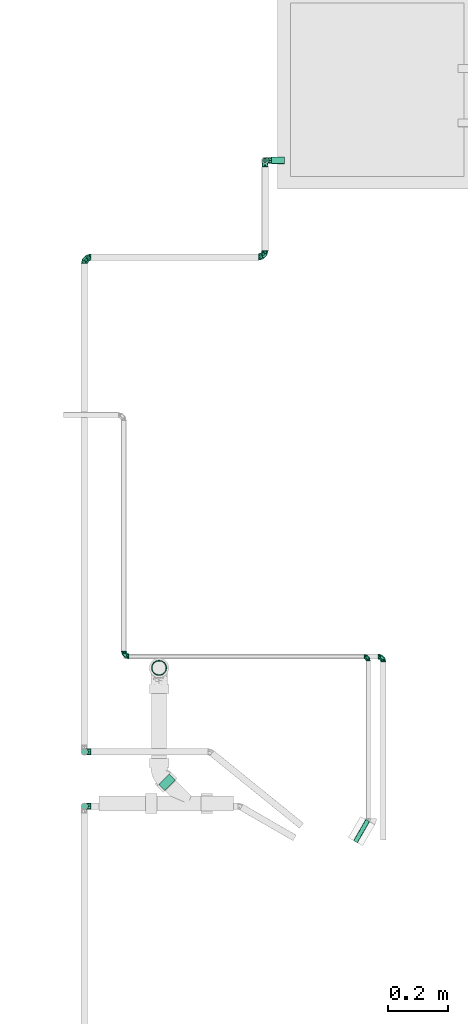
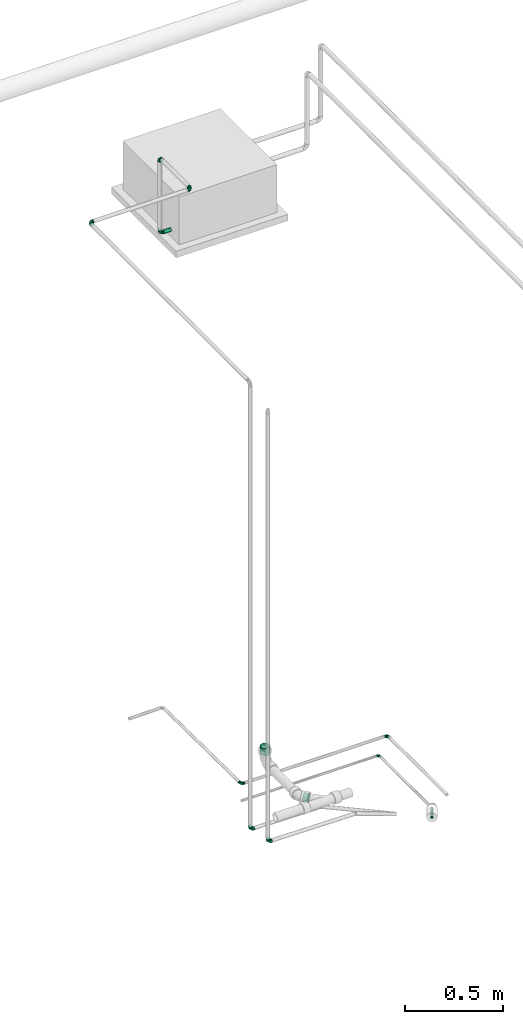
# One storey, part 21 of 35: 9 flow fittings, 4 flow segments.
"""IFC2X3 building model written with IfcOpenShell, lengths in millimetres."""

from ifc_helpers import new_model, entity, si_unit, converted_unit, derived_unit, direction, frame, origin_with_axes, origin_2d_with_axis, place, context, subcontext, project, spatial, hollow_circle, extrude, open_shell, surface_model, source, transform, mapped, type_object, element, save


model = new_model("IFC2X3")

# Units and contexts
model_context = context("Model", 3, precision=0.01, world=frame((0.0, 4.29681676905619e-09, 0.0)), true_north=direction((4.01073788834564e-13, 1.0)))
plan_context = context("Plan", 3, precision=0.01, world=frame((0.0, 4.29681676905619e-09, 0.0)), true_north=direction((4.01073788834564e-13, 1.0)))
body_context = subcontext(model_context, "Body", "Model", "MODEL_VIEW")
ifc_project = project(units=[converted_unit("PLANEANGLEUNIT", "DEGREE", entity("IfcPositiveLengthMeasure", 0.0174532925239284), si_unit("PLANEANGLEUNIT", "RADIAN"), dimensions=[0, 0, 0, 0, 0, 0, 0]), si_unit("AREAUNIT", "SQUARE_METRE"), si_unit("LENGTHUNIT", "METRE", prefix="MILLI"), si_unit("MASSUNIT", "GRAM", prefix="KILO"), si_unit("POWERUNIT", "WATT"), si_unit("PRESSUREUNIT", "PASCAL"), si_unit("FORCEUNIT", "NEWTON", prefix="KILO"), si_unit("ELECTRICVOLTAGEUNIT", "VOLT"), si_unit("ELECTRICCURRENTUNIT", "AMPERE"), si_unit("THERMODYNAMICTEMPERATUREUNIT", "DEGREE_CELSIUS"), si_unit("TIMEUNIT", "SECOND"), si_unit("VOLUMEUNIT", "CUBIC_METRE"), derived_unit("LINEARVELOCITYUNIT", [(si_unit("LENGTHUNIT", "METRE"), 1), (si_unit("TIMEUNIT", "SECOND"), -1)]), derived_unit("VOLUMETRICFLOWRATEUNIT", [(si_unit("VOLUMEUNIT", "CUBIC_METRE"), 1), (si_unit("TIMEUNIT", "SECOND"), -1)]), derived_unit("THERMALTRANSMITTANCEUNIT", [(si_unit("POWERUNIT", "WATT"), 1), (si_unit("THERMODYNAMICTEMPERATUREUNIT", "KELVIN"), -1), (si_unit("AREAUNIT", "SQUARE_METRE"), -1)]), derived_unit("SOUNDPRESSUREUNIT", [(si_unit("PRESSUREUNIT", "PASCAL"), 1)])], contexts=[model_context, plan_context])

# Site, building, storey
site_placement = place(None, frame((0.0, -4.29681676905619e-09, 0.0), z_axis=(0.0, 0.0, 1.0), x_axis=(1.0, 0.0, 0.0)))
site = spatial("IfcSite", under=ifc_project, at=site_placement, Name="ENGM", CompositionType="ELEMENT")
building_placement = place(site_placement, frame((0.0, 4.29681676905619e-09, 0.0), z_axis=(0.0, 0.0, 1.0), x_axis=(1.0, 0.0, 0.0)))
building = spatial("IfcBuilding", under=site, at=building_placement, Name="TH", CompositionType="ELEMENT")
storey_placement = place(building_placement, frame((0.0, 0.0, 210200.0), z_axis=(0.0, 0.0, 1.0), x_axis=(1.0, 0.0, 0.0)))
storey = spatial("IfcBuildingStorey", under=building, at=storey_placement, Name="Nivå F - 0,7 m", CompositionType="ELEMENT", Elevation=210200.0)

# Flow fittings
pipe_fitting_type = type_object("IfcPipeFittingType", Name="magi_pipe_cu_elbow_short_001", PredefinedType="BEND")
shared_shape_1 = source(origin_with_axes(), body_context, "Body", "SurfaceModel", [
    surface_model("IfcShellBasedSurfaceModel", [(-18.0, 4.5, -7.79423), (-18.0, 2.32937, -8.69333), (-18.0, 0.0, -9.0), (-18.0, -6.36396, -6.36396), (-18.0, 8.69333, -2.32937), (-18.0, 7.79423, -4.5), (-18.0, 6.36396, -6.36396), (-18.0, -4.5, -7.79423), (-18.0, -2.32937, -8.69333), (-18.0, -7.79423, -4.5), (-18.0, -8.69333, -2.32937), (-18.0, -9.0, 0.0), (-18.0, 8.69333, 2.32937), (-18.0, -8.69333, 2.32937), (-18.0, 7.79423, 4.5), (-18.0, 6.36396, 6.36396), (-18.0, 2.32937, 8.69333), (-18.0, 4.5, 7.79423), (-18.0, -7.79423, 4.5), (-18.0, -6.36396, 6.36396), (-18.0, -4.5, 7.79423), (-18.0, -2.32937, 8.69333), (-18.0, 0.0, 9.0), (-18.0, 9.0, 0.0), (0.0, 18.0, -9.0), (-2.32937, 18.0, -8.69333), (-4.5, 18.0, -7.79423), (6.36396, 18.0, -6.36396), (-6.36396, 18.0, -6.36396), (-7.79423, 18.0, -4.5), (-8.69333, 18.0, -2.32937), (-8.69333, 18.0, 2.32937), (2.32937, 18.0, -8.69333), (4.5, 18.0, -7.79423), (8.69333, 18.0, -2.32937), (7.79423, 18.0, -4.5), (9.0, 18.0, 0.0), (7.79423, 18.0, 4.5), (-9.0, 18.0, 0.0), (-6.36396, 18.0, 6.36396), (-7.79423, 18.0, 4.5), (-4.5, 18.0, 7.79423), (-2.32937, 18.0, 8.69333), (6.36396, 18.0, 6.36396), (8.69333, 18.0, 2.32937), (2.32937, 18.0, 8.69333), (4.5, 18.0, 7.79423), (0.0, 18.0, 9.0), (-16.09014, -8.48825, 0.0), (-10.51068, -2.97249, 7.92278), (-10.36056, -6.95302, 0.0), (-4.5, -5.38269, 0.0), (0.44134, -0.44134, 0.0), (2.91201, 2.02933, 0.0), (-2.70211, 1.18586, 7.65564), (-2.02933, -2.91201, 0.0), (-14.18028, -7.97651, 0.0), (-7.11648, 7.11648, 8.61373), (-4.93977, 9.63211, 8.64898), (2.97249, 10.51068, 7.92278), (2.01286, 5.84889, 7.1903), (5.38269, 4.5, 0.0), (-5.73616, -2.07922, 7.10204), (8.48825, 16.09014, 0.0), (7.97651, 14.18028, 0.0), (-9.63211, 4.93977, 8.64898), (-10.31802, 14.81802, 0.0), (-14.81802, 10.31802, 0.0), (-11.63604, 11.63604, 0.0), (6.95302, 10.36056, 0.0), (-10.51068, -2.97249, -7.92278), (-4.93977, 9.63211, -8.64898), (0.8585, 4.1248, -7.1903), (-2.68792, 2.14037, -8.03971), (2.97249, 10.51068, -7.92278), (-13.67048, 7.29638, -6.27272), (-8.50355, 2.18787, -8.98901), (-9.83427, 8.11209, -7.36254)], [open_shell([[[0, 1, 2]], [[0, 2, 3]], [[0, 4, 5]], [[6, 0, 5]], [[4, 0, 3]], [[7, 3, 8]], [[3, 2, 8]], [[9, 10, 3]], [[11, 3, 10]], [[3, 11, 4]], [[11, 12, 4]], [[12, 11, 13]], [[14, 12, 15]], [[16, 17, 15]], [[13, 15, 12]], [[15, 18, 16]], [[18, 19, 16]], [[15, 13, 18]], [[20, 21, 19]], [[22, 19, 21]], [[16, 19, 22]], [[23, 4, 12]], [[24, 25, 26]], [[27, 24, 26]], [[28, 29, 30]], [[28, 30, 26]], [[26, 31, 27]], [[32, 27, 33]], [[32, 24, 27]], [[27, 34, 35]], [[34, 27, 36]], [[27, 37, 36]], [[26, 30, 38]], [[27, 31, 37]], [[39, 31, 40]], [[39, 41, 42]], [[39, 42, 31]], [[43, 31, 42]], [[31, 43, 37]], [[44, 36, 37]], [[43, 45, 46]], [[45, 43, 47]], [[47, 43, 42]], [[31, 26, 38]], [[13, 48, 18]], [[49, 50, 51]], [[52, 53, 54]], [[54, 55, 52]], [[20, 19, 56]], [[18, 56, 19]], [[57, 54, 58]], [[20, 50, 21]], [[22, 21, 50]], [[59, 60, 61]], [[59, 58, 60]], [[55, 54, 62]], [[22, 50, 49]], [[22, 49, 16]], [[62, 49, 51]], [[62, 51, 55]], [[37, 63, 44]], [[49, 17, 16]], [[64, 63, 37]], [[12, 65, 23]], [[14, 15, 49]], [[54, 65, 62]], [[17, 49, 15]], [[58, 38, 66]], [[67, 57, 68]], [[53, 60, 54]], [[45, 47, 69]], [[69, 46, 45]], [[39, 59, 41]], [[42, 59, 47]], [[43, 46, 64]], [[68, 57, 66]], [[64, 46, 69]], [[61, 60, 53]], [[44, 63, 36]], [[59, 61, 69]], [[38, 58, 31]], [[20, 56, 50]], [[54, 57, 65]], [[49, 65, 14]], [[66, 57, 58]], [[64, 37, 43]], [[40, 31, 58]], [[14, 65, 12]], [[39, 40, 59]], [[13, 11, 48]], [[40, 58, 59]], [[48, 56, 18]], [[41, 59, 42]], [[59, 69, 47]], [[49, 62, 65]], [[57, 67, 65]], [[54, 60, 58]], [[67, 23, 65]], [[70, 50, 2]], [[71, 72, 73]], [[74, 71, 29]], [[70, 1, 0]], [[70, 51, 50]], [[34, 36, 63]], [[75, 6, 5]], [[75, 4, 23]], [[5, 4, 75]], [[51, 76, 55]], [[75, 23, 67]], [[70, 6, 75]], [[48, 11, 10]], [[7, 56, 3]], [[2, 50, 8]], [[51, 70, 76]], [[56, 7, 50]], [[7, 8, 50]], [[70, 2, 1]], [[66, 38, 71]], [[52, 72, 53]], [[6, 70, 0]], [[70, 75, 76]], [[73, 52, 55]], [[71, 68, 66]], [[61, 53, 72]], [[33, 64, 69]], [[30, 71, 38]], [[28, 74, 29]], [[56, 9, 3]], [[26, 25, 74]], [[63, 64, 35]], [[56, 48, 9]], [[26, 74, 28]], [[9, 48, 10]], [[24, 74, 25]], [[32, 69, 24]], [[29, 71, 30]], [[27, 64, 33]], [[69, 32, 33]], [[68, 71, 77]], [[74, 24, 69]], [[35, 34, 63]], [[61, 72, 74]], [[61, 74, 69]], [[67, 77, 75]], [[74, 72, 71]], [[35, 64, 27]], [[76, 77, 73]], [[75, 77, 76]], [[77, 71, 73]], [[55, 76, 73]], [[72, 52, 73]], [[77, 67, 68]]])]),
])
for number, where, z_axis, x_axis, name in (
    (1, (899490.50163, 483977.73199, 202.100000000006), (0.0, -4.29999999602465e-05, 0.9999999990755), (0.0, 0.9999999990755, 4.29999999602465e-05), "magi_pipe_cu_elbow_short_001"),
    (2, (898630.50163, 483977.73199, 202.100000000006), (0.0, 0.00999900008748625, 0.999950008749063), (0.0, -0.999950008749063, 0.00999900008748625), "magi_pipe_cu_elbow_short_001"),
):
    element("IfcFlowFitting", number, at=place(storey_placement, frame(where, z_axis=z_axis, x_axis=x_axis)), inside=storey, type_object=pipe_fitting_type, Name=name, context=body_context, shape_type="MappedRepresentation", body=[
        mapped(shared_shape_1, transform((0.0, 0.0, 0.0), scale=1.0)),
    ])
shared_shape_2 = source(origin_with_axes(), body_context, "Body", "SurfaceModel", [
    surface_model("IfcShellBasedSurfaceModel", [(-22.0, 0.0, -11.0), (-22.0, -2.84701, -10.62518), (-22.0, 2.84701, -10.62518), (-22.0, 5.5, -9.52628), (-22.0, 7.77817, -7.77817), (-22.0, 10.62518, -2.84701), (-22.0, 9.52628, -5.5), (-22.0, -7.77817, -7.77817), (-22.0, -9.52628, -5.5), (-22.0, -5.5, -9.52628), (-22.0, -10.62518, -2.84701), (-22.0, -9.52628, 5.5), (-22.0, -11.0, 0.0), (-22.0, 10.62518, 2.84701), (-22.0, 9.52628, 5.5), (-22.0, 7.77817, 7.77817), (-22.0, 2.84701, 10.62518), (-22.0, 5.5, 9.52628), (-22.0, -7.77817, 7.77817), (-22.0, -10.62518, 2.84701), (-22.0, -2.84701, 10.62518), (-22.0, 0.0, 11.0), (-22.0, -5.5, 9.52628), (-22.0, 11.0, 0.0), (-2.84701, 22.0, -10.62518), (2.84701, 22.0, -10.62518), (0.0, 22.0, -11.0), (-7.77817, 22.0, -7.77817), (-5.5, 22.0, -9.52628), (-9.52628, 22.0, -5.5), (-10.62518, 22.0, -2.84701), (5.5, 22.0, -9.52628), (9.52628, 22.0, -5.5), (7.77817, 22.0, -7.77817), (10.62518, 22.0, -2.84701), (9.52628, 22.0, 5.5), (11.0, 22.0, 0.0), (-10.62518, 22.0, 2.84701), (-7.77817, 22.0, 7.77817), (-9.52628, 22.0, 5.5), (-5.5, 22.0, 9.52628), (-2.84701, 22.0, 10.62518), (7.77817, 22.0, 7.77817), (10.62518, 22.0, 2.84701), (5.5, 22.0, 9.52628), (0.0, 22.0, 11.0), (2.84701, 22.0, 10.62518), (-11.0, 22.0, 0.0), (-18.49859, -10.0618, 0.0), (-10.24859, -7.85122, 0.0), (-9.34901, -7.11844, 5.09685), (-14.89307, -7.23891, 7.45305), (5.78852, 8.4802, 6.46058), (2.12041, 3.18539, 6.87037), (3.55913, 2.48029, 0.0), (1.01335, 10.61047, 10.36705), (-14.99718, -9.1236, 0.0), (5.14392, 14.4409, 9.10203), (-11.75269, -3.39299, 9.59306), (7.85122, 10.24859, 0.0), (9.1236, 14.99718, 0.0), (-8.06006, 14.23023, 9.19276), (-3.72868, 16.47919, 10.60733), (-15.76443, 3.42828, 10.73288), (-8.21542, -0.66336, 10.02562), (-12.61091, 18.11091, 0.0), (-14.22183, 14.22183, 0.0), (-5.37587, -4.55716, 5.82482), (6.57884, 5.5, 0.0), (-15.57958, 10.44534, 6.62476), (-10.44966, 10.29499, 9.49395), (10.0618, 18.49859, 0.0), (-7.4322, 4.10078, 10.94703), (-2.22445, -1.03187, 7.15282), (0.53942, -0.53942, 0.0), (-3.02405, 7.17381, 10.80133), (-18.11091, 12.61091, 0.0), (-2.48029, -3.55913, 0.0), (-5.5, -6.57884, 0.0), (-9.08269, -0.07613, -10.40197), (-2.22445, -1.03187, -7.15282), (-6.00435, -4.17546, -6.76221), (-8.06006, 14.23023, -9.19276), (-15.76443, 3.42828, -10.73288), (-11.75269, -3.39299, -9.59306), (-15.57958, 10.44534, -6.62476), (-7.4322, 4.10078, -10.94703), (-10.44966, 10.29499, -9.49395), (2.12041, 3.18539, -6.87037), (-3.02405, 7.17381, -10.80133), (-14.89307, -7.23891, -7.45305), (5.14392, 14.4409, -9.10203), (-3.72868, 16.47919, -10.60733), (1.01335, 10.61047, -10.36705), (5.78852, 8.4802, -6.46058), (-9.34901, -7.11844, -5.09685)], [open_shell([[[0, 1, 2]], [[3, 2, 4]], [[5, 6, 4]], [[4, 2, 1]], [[5, 4, 1]], [[7, 8, 9]], [[1, 9, 8]], [[8, 10, 1]], [[11, 1, 10]], [[12, 11, 10]], [[5, 1, 11]], [[11, 13, 5]], [[14, 13, 15]], [[16, 17, 15]], [[13, 16, 15]], [[16, 13, 11]], [[11, 18, 16]], [[11, 12, 19]], [[20, 21, 22]], [[16, 18, 22]], [[21, 16, 22]], [[23, 5, 13]], [[24, 25, 26]], [[27, 24, 28]], [[27, 29, 30]], [[25, 24, 27]], [[25, 27, 30]], [[31, 32, 33]], [[32, 31, 25]], [[25, 34, 32]], [[34, 25, 35]], [[34, 35, 36]], [[35, 25, 30]], [[30, 37, 35]], [[38, 37, 39]], [[38, 40, 41]], [[38, 41, 37]], [[35, 37, 41]], [[41, 42, 35]], [[43, 36, 35]], [[44, 45, 46]], [[44, 42, 41]], [[44, 41, 45]], [[37, 30, 47]], [[11, 19, 48]], [[49, 50, 51]], [[52, 53, 54]], [[52, 55, 53]], [[51, 18, 56]], [[18, 11, 56]], [[41, 57, 45]], [[21, 51, 58]], [[51, 20, 22]], [[57, 59, 60]], [[61, 55, 62]], [[63, 58, 64]], [[65, 66, 61]], [[51, 21, 20]], [[21, 58, 16]], [[67, 58, 50]], [[54, 68, 52]], [[63, 15, 17]], [[19, 12, 48]], [[23, 13, 69]], [[14, 15, 63]], [[62, 40, 38]], [[16, 58, 63]], [[14, 69, 13]], [[63, 17, 16]], [[59, 52, 68]], [[60, 42, 44]], [[57, 46, 45]], [[69, 70, 66]], [[52, 59, 57]], [[39, 62, 38]], [[60, 35, 42]], [[44, 57, 60]], [[44, 46, 57]], [[18, 51, 22]], [[43, 71, 36]], [[51, 56, 49]], [[70, 69, 72]], [[73, 74, 53]], [[75, 72, 73]], [[14, 63, 69]], [[47, 65, 37]], [[35, 71, 43]], [[55, 57, 62]], [[52, 57, 55]], [[41, 40, 62]], [[60, 71, 35]], [[37, 61, 39]], [[48, 56, 11]], [[61, 62, 39]], [[62, 57, 41]], [[69, 63, 72]], [[53, 75, 73]], [[69, 66, 76]], [[67, 64, 58]], [[75, 53, 55]], [[67, 77, 73]], [[55, 61, 75]], [[70, 75, 61]], [[50, 49, 78]], [[67, 50, 78]], [[51, 50, 58]], [[77, 74, 73]], [[73, 72, 64]], [[67, 78, 77]], [[73, 64, 67]], [[63, 64, 72]], [[37, 65, 61]], [[75, 70, 72]], [[23, 69, 76]], [[66, 70, 61]], [[53, 74, 54]], [[79, 80, 81]], [[65, 30, 82]], [[3, 4, 83]], [[2, 84, 0]], [[5, 23, 85]], [[8, 48, 10]], [[83, 6, 85]], [[85, 6, 5]], [[86, 85, 87]], [[83, 86, 79]], [[83, 84, 2]], [[48, 12, 10]], [[80, 77, 81]], [[88, 80, 89]], [[8, 7, 56]], [[9, 1, 90]], [[91, 31, 60]], [[7, 9, 90]], [[90, 1, 0]], [[84, 90, 0]], [[7, 90, 56]], [[29, 92, 82]], [[6, 83, 4]], [[85, 23, 76]], [[80, 88, 74]], [[82, 66, 65]], [[93, 82, 92]], [[29, 82, 30]], [[29, 27, 92]], [[27, 28, 92]], [[71, 60, 32]], [[91, 92, 24]], [[56, 48, 8]], [[34, 36, 71]], [[28, 24, 92]], [[94, 88, 93]], [[26, 91, 24]], [[31, 91, 25]], [[83, 2, 3]], [[94, 93, 91]], [[33, 60, 31]], [[89, 93, 88]], [[25, 91, 26]], [[71, 32, 34]], [[92, 91, 93]], [[59, 91, 60]], [[86, 83, 85]], [[95, 78, 49]], [[33, 32, 60]], [[66, 87, 85]], [[94, 59, 68]], [[89, 80, 86]], [[49, 56, 90]], [[94, 54, 88]], [[59, 94, 91]], [[95, 90, 84]], [[87, 89, 86]], [[82, 93, 89]], [[81, 78, 95]], [[90, 95, 49]], [[81, 95, 84]], [[79, 81, 84]], [[82, 87, 66]], [[83, 79, 84]], [[80, 79, 86]], [[77, 80, 74]], [[77, 78, 81]], [[47, 30, 65]], [[66, 85, 76]], [[89, 87, 82]], [[54, 94, 68]], [[54, 74, 88]]])]),
])
for number, where, z_axis, x_axis, name in (
    (3, (899098.44747, 485620.66876, 2940.24952000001), (1.0, 0.0, 0.0), (0.0, 0.0, 1.0), "magi_pipe_cu_elbow_short_001"),
    (4, (899098.48428, 485300.66876, 2940.09995999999), (0.0, 0.0, 1.0), (1.0, 0.0, 0.0), "magi_pipe_cu_elbow_short_001"),
    (5, (898499.95953, 485300.66876, 2940.09995999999), (0.0, 0.0, 1.0), (-1.0, 0.0, 0.0), "magi_pipe_cu_elbow_short_001"),
    (6, (899098.44747, 485620.66876, 2470.24952000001), (0.0, -1.0, 0.0), (0.0, 0.0, -1.0), "magi_pipe_cu_elbow_short_001"),
):
    element("IfcFlowFitting", number, at=place(storey_placement, frame(where, z_axis=z_axis, x_axis=x_axis)), inside=storey, type_object=pipe_fitting_type, Name=name, context=body_context, shape_type="MappedRepresentation", body=[
        mapped(shared_shape_2, transform((0.0, 0.0, 0.0), scale=1.0)),
    ])
shared_shape_3 = source(origin_with_axes(), body_context, "Body", "SurfaceModel", [
    surface_model("IfcShellBasedSurfaceModel", [(-15.0, 0.0, -7.5), (-15.0, -6.49519, -3.75), (-15.0, 1.94114, -7.24444), (-15.0, 3.75, -6.49519), (-15.0, 5.3033, -5.3033), (-15.0, 7.24444, -1.94114), (-15.0, 6.49519, -3.75), (-15.0, -5.3033, -5.3033), (-15.0, -3.75, -6.49519), (-15.0, -1.94114, -7.24444), (-15.0, -7.24444, -1.94114), (-15.0, -7.5, 0.0), (-15.0, -6.49519, 3.75), (-15.0, 7.24444, 1.94114), (-15.0, 6.49519, 3.75), (-15.0, 3.75, 6.49519), (-15.0, 1.94114, 7.24444), (-15.0, 5.3033, 5.3033), (-15.0, -5.3033, 5.3033), (-15.0, -7.24444, 1.94114), (-15.0, -1.94114, 7.24444), (-15.0, 0.0, 7.5), (-15.0, -3.75, 6.49519), (-15.0, 7.5, 0.0), (-1.94114, 15.0, -7.24444), (6.49519, 15.0, -3.75), (0.0, 15.0, -7.5), (-5.3033, 15.0, -5.3033), (-3.75, 15.0, -6.49519), (-6.49519, 15.0, -3.75), (-7.24444, 15.0, -1.94114), (3.75, 15.0, -6.49519), (5.3033, 15.0, -5.3033), (1.94114, 15.0, -7.24444), (7.5, 15.0, 0.0), (7.24444, 15.0, -1.94114), (-7.5, 15.0, 0.0), (-7.24444, 15.0, 1.94114), (-6.49519, 15.0, 3.75), (-3.75, 15.0, 6.49519), (-1.94114, 15.0, 7.24444), (-5.3033, 15.0, 5.3033), (5.3033, 15.0, 5.3033), (6.49519, 15.0, 3.75), (7.24444, 15.0, 1.94114), (3.75, 15.0, 6.49519), (0.0, 15.0, 7.5), (1.94114, 15.0, 7.24444), (-13.40845, -7.07355, 0.0), (-8.7589, -2.47707, 6.60232), (-8.6338, -5.79418, 0.0), (-3.75, -4.48557, 0.0), (0.36779, -0.36779, 0.0), (2.42668, 1.69111, 0.0), (-2.25176, 0.98822, 6.3797), (-1.69111, -2.42668, 0.0), (-11.8169, -6.64709, 0.0), (-5.9304, 5.9304, 7.17811), (-4.11647, 8.02676, 7.20749), (2.47708, 8.7589, 6.60232), (1.67739, 4.87408, 5.99192), (4.48557, 3.75, 0.0), (-4.78013, -1.73268, 5.91836), (7.07355, 13.40845, 0.0), (6.64709, 11.8169, 0.0), (-8.02675, 4.11647, 7.20749), (-8.59835, 12.34835, 0.0), (-12.34835, 8.59835, 0.0), (-9.6967, 9.6967, 0.0), (5.79418, 8.6338, 0.0), (-8.7589, -2.47707, -6.60232), (-4.11647, 8.02676, -7.20749), (0.71542, 3.43733, -5.99192), (-2.23993, 1.78364, -6.69976), (2.47708, 8.7589, -6.60232), (-11.39207, 6.08032, -5.22727), (-7.08629, 1.82323, -7.49084), (-8.19523, 6.76007, -6.13545)], [open_shell([[[0, 1, 2]], [[3, 2, 4]], [[5, 6, 4]], [[4, 2, 1]], [[5, 4, 1]], [[7, 1, 8]], [[9, 8, 1]], [[10, 11, 1]], [[0, 9, 1]], [[11, 12, 1]], [[12, 5, 1]], [[13, 5, 12]], [[14, 13, 15]], [[13, 16, 15]], [[17, 14, 15]], [[16, 13, 12]], [[12, 18, 16]], [[12, 11, 19]], [[20, 21, 22]], [[18, 22, 21]], [[16, 18, 21]], [[13, 23, 5]], [[24, 25, 26]], [[27, 24, 28]], [[27, 29, 30]], [[25, 24, 27]], [[25, 27, 30]], [[31, 25, 32]], [[25, 31, 33]], [[25, 34, 35]], [[25, 33, 26]], [[30, 34, 25]], [[30, 36, 34]], [[36, 37, 38]], [[36, 38, 39]], [[40, 34, 39]], [[39, 38, 41]], [[40, 42, 34]], [[42, 43, 34]], [[44, 34, 43]], [[45, 46, 47]], [[45, 42, 40]], [[45, 40, 46]], [[39, 34, 36]], [[19, 48, 12]], [[49, 50, 51]], [[52, 53, 54]], [[54, 55, 52]], [[22, 18, 56]], [[12, 56, 18]], [[57, 54, 58]], [[22, 50, 20]], [[21, 20, 50]], [[59, 60, 61]], [[59, 58, 60]], [[55, 54, 62]], [[21, 50, 49]], [[21, 49, 16]], [[62, 49, 51]], [[62, 51, 55]], [[43, 63, 44]], [[49, 15, 16]], [[64, 63, 43]], [[13, 65, 23]], [[14, 17, 49]], [[54, 65, 62]], [[15, 49, 17]], [[57, 58, 66]], [[67, 57, 68]], [[53, 60, 54]], [[47, 46, 69]], [[69, 45, 47]], [[41, 59, 39]], [[40, 59, 46]], [[42, 45, 64]], [[54, 60, 58]], [[64, 45, 69]], [[61, 60, 53]], [[44, 63, 34]], [[59, 61, 69]], [[58, 36, 66]], [[22, 56, 50]], [[54, 57, 65]], [[49, 65, 14]], [[37, 36, 58]], [[64, 43, 42]], [[38, 37, 58]], [[14, 65, 13]], [[41, 38, 59]], [[19, 11, 48]], [[38, 58, 59]], [[48, 56, 12]], [[39, 59, 40]], [[59, 69, 46]], [[49, 62, 65]], [[57, 67, 65]], [[66, 68, 57]], [[67, 23, 65]], [[70, 50, 0]], [[71, 72, 73]], [[74, 71, 29]], [[70, 2, 3]], [[70, 51, 50]], [[35, 34, 63]], [[75, 4, 6]], [[75, 5, 23]], [[6, 5, 75]], [[51, 76, 55]], [[75, 23, 67]], [[70, 4, 75]], [[48, 11, 10]], [[8, 56, 7]], [[0, 50, 9]], [[51, 70, 76]], [[56, 8, 50]], [[8, 9, 50]], [[70, 0, 2]], [[66, 36, 71]], [[52, 72, 53]], [[4, 70, 3]], [[70, 75, 76]], [[73, 52, 55]], [[71, 68, 66]], [[61, 53, 72]], [[31, 64, 69]], [[30, 71, 36]], [[27, 74, 29]], [[56, 1, 7]], [[28, 24, 74]], [[63, 64, 25]], [[56, 48, 1]], [[28, 74, 27]], [[1, 48, 10]], [[26, 74, 24]], [[33, 69, 26]], [[29, 71, 30]], [[32, 64, 31]], [[69, 33, 31]], [[68, 71, 77]], [[74, 26, 69]], [[25, 35, 63]], [[61, 72, 74]], [[61, 74, 69]], [[67, 77, 75]], [[74, 72, 71]], [[25, 64, 32]], [[76, 77, 73]], [[75, 77, 76]], [[77, 71, 73]], [[55, 76, 73]], [[72, 52, 73]], [[77, 67, 68]]])]),
])
flow_fitting_placement = place(storey_placement, frame((899440.50163, 483977.73199, 97.1000000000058), z_axis=(0.0, 0.0, 1.0), x_axis=(0.0, 1.0, 0.0)))
element("IfcFlowFitting", 7, at=flow_fitting_placement, inside=storey, type_object=pipe_fitting_type, Name="magi_pipe_cu_elbow_short_001", context=body_context, shape_type="MappedRepresentation", body=[
    mapped(shared_shape_3, transform((0.0, 0.0, 0.0), scale=1.0)),
])
shared_shape_4 = source(origin_with_axes(), body_context, "Body", "SurfaceModel", [
    surface_model("IfcShellBasedSurfaceModel", [(-21.7811, 0.0, -11.0), (-21.7811, -2.84701, -10.62518), (-21.7811, 2.84701, -10.62518), (-21.7811, 5.5, -9.52628), (-21.7811, 7.77817, -7.77817), (-21.7811, 10.62518, -2.84701), (-21.7811, 9.52628, -5.5), (-21.7811, -7.77817, -7.77817), (-21.7811, -9.52628, -5.5), (-21.7811, -5.5, -9.52628), (-21.7811, -10.62518, -2.84701), (-21.7811, -9.52628, 5.5), (-21.7811, -11.0, 0.0), (-21.7811, 10.62518, 2.84701), (-21.7811, 9.52628, 5.5), (-21.7811, 7.77817, 7.77817), (-21.7811, 2.84701, 10.62518), (-21.7811, 5.5, 9.52628), (-21.7811, -7.77817, 7.77817), (-21.7811, -10.62518, 2.84701), (-21.7811, -2.84701, 10.62518), (-21.7811, 0.0, 11.0), (-21.7811, -5.5, 9.52628), (-21.7811, 11.0, 0.0), (-2.62907, 21.80848, -10.62518), (3.06467, 21.75154, -10.62518), (0.2178, 21.78001, -11.0), (-7.55999, 21.85779, -7.77817), (-5.28193, 21.83501, -9.52628), (-9.308, 21.87527, -5.5), (-10.40685, 21.88626, -2.84701), (7.99559, 21.70223, -7.77817), (5.71752, 21.72501, -9.52628), (9.7436, 21.68475, -5.5), (10.84245, 21.67376, -2.84701), (9.7436, 21.68475, 5.5), (11.21725, 21.67002, 0.0), (-7.55999, 21.85779, 7.77817), (-10.40685, 21.88626, 2.84701), (-9.308, 21.87527, 5.5), (-5.28193, 21.83501, 9.52628), (-2.62907, 21.80848, 10.62518), (7.99559, 21.70223, 7.77817), (10.84245, 21.67376, 2.84701), (3.06467, 21.75154, 10.62518), (5.71752, 21.72501, 9.52628), (0.2178, 21.78001, 11.0), (-10.78165, 21.89001, 0.0), (-18.27762, -10.0675, 0.0), (-14.69686, -7.2276, 7.47076), (-14.77414, -9.135, 0.0), (-10.0753, -7.88434, 0.0), (-11.55383, -3.37689, 9.6056), (-9.20877, -7.13537, 5.12679), (-4.8184, -3.79345, 6.50389), (2.16903, 15.67761, 10.64537), (-6.59146, 17.54352, 9.10658), (1.10212, 10.38687, 10.37277), (-7.93582, 14.12228, 9.1733), (-15.56806, 3.44552, 10.72758), (-15.42829, 10.45726, 6.56717), (-14.04191, 14.18303, 0.0), (-12.41178, 18.03652, 0.0), (-5.37645, -6.63368, 0.0), (-0.83948, 0.68001, 7.6702), (-7.36179, 4.13853, 10.95843), (6.68711, 5.30985, 0.0), (4.45708, 5.28985, 6.16887), (3.67122, 2.32397, 0.0), (7.61965, 13.3249, 6.79044), (9.28228, 14.68206, 0.0), (-10.35721, 10.27116, 9.45175), (-2.72095, 6.80237, 10.74002), (5.4447, 9.95435, 7.78485), (7.98469, 9.99595, 0.0), (10.24976, 18.17604, 0.0), (-10.03514, 0.72985, 10.75731), (-17.91151, 12.59152, 0.0), (-2.36056, -3.6478, 0.0), (0.65533, -0.66191, 0.0), (-10.03514, 0.72985, -10.75731), (-4.8184, -3.79345, -6.50389), (-11.55383, -3.37689, -9.6056), (-10.35721, 10.27116, -9.45175), (-7.36179, 4.13853, -10.95843), (-15.42829, 10.45726, -6.56717), (-15.56806, 3.44552, -10.72758), (-0.83948, 0.68001, -7.6702), (-2.72095, 6.80237, -10.74002), (4.45708, 5.28985, -6.16887), (-6.59146, 17.54352, -9.10658), (-9.20877, -7.13537, -5.12679), (-14.69686, -7.2276, -7.47076), (5.4447, 9.95435, -7.78485), (-7.93582, 14.12228, -9.1733), (2.16903, 15.67761, -10.64537), (7.61965, 13.3249, -6.79044), (1.10212, 10.38687, -10.37277)], [open_shell([[[0, 1, 2]], [[3, 2, 4]], [[5, 6, 4]], [[4, 2, 1]], [[5, 4, 1]], [[7, 8, 9]], [[1, 9, 8]], [[8, 10, 1]], [[11, 1, 10]], [[12, 11, 10]], [[5, 1, 11]], [[11, 13, 5]], [[14, 13, 15]], [[16, 17, 15]], [[13, 16, 15]], [[16, 13, 11]], [[11, 18, 16]], [[11, 12, 19]], [[20, 21, 22]], [[16, 18, 22]], [[21, 16, 22]], [[23, 5, 13]], [[24, 25, 26]], [[27, 24, 28]], [[27, 29, 30]], [[25, 31, 32]], [[31, 25, 33]], [[25, 34, 33]], [[34, 35, 36]], [[37, 38, 39]], [[37, 40, 41]], [[37, 41, 38]], [[42, 38, 41]], [[43, 36, 35]], [[42, 44, 45]], [[42, 41, 44]], [[44, 41, 46]], [[38, 30, 47]], [[11, 19, 48]], [[49, 50, 51]], [[52, 53, 54]], [[55, 56, 57]], [[49, 18, 50]], [[18, 11, 50]], [[44, 46, 55]], [[21, 49, 52]], [[49, 20, 22]], [[18, 49, 22]], [[58, 57, 56]], [[14, 59, 60]], [[61, 58, 62]], [[49, 21, 20]], [[21, 52, 16]], [[53, 51, 63]], [[54, 64, 65]], [[59, 15, 17]], [[19, 12, 48]], [[23, 13, 60]], [[14, 15, 59]], [[40, 56, 55]], [[16, 52, 59]], [[14, 60, 13]], [[59, 17, 16]], [[66, 67, 68]], [[69, 70, 42]], [[45, 44, 69]], [[58, 71, 72]], [[41, 55, 46]], [[44, 55, 69]], [[70, 35, 42]], [[73, 74, 69]], [[42, 45, 69]], [[54, 53, 63]], [[43, 75, 36]], [[76, 59, 52]], [[71, 60, 65]], [[54, 65, 76]], [[61, 60, 71]], [[73, 55, 57]], [[38, 58, 56]], [[35, 75, 43]], [[56, 37, 39]], [[73, 57, 67]], [[37, 56, 40]], [[70, 75, 35]], [[62, 38, 47]], [[48, 50, 11]], [[56, 39, 38]], [[40, 55, 41]], [[60, 59, 65]], [[49, 53, 52]], [[60, 61, 77]], [[64, 78, 79]], [[49, 51, 53]], [[78, 64, 54]], [[64, 79, 68]], [[72, 65, 64]], [[54, 76, 52]], [[68, 67, 64]], [[67, 57, 72]], [[67, 72, 64]], [[58, 72, 57]], [[66, 73, 67]], [[55, 73, 69]], [[38, 62, 58]], [[72, 71, 65]], [[61, 71, 58]], [[74, 73, 66]], [[74, 70, 69]], [[65, 59, 76]], [[54, 63, 78]], [[80, 81, 82]], [[83, 84, 85]], [[3, 4, 86]], [[2, 82, 0]], [[5, 23, 85]], [[8, 48, 10]], [[86, 6, 85]], [[87, 88, 89]], [[85, 6, 5]], [[29, 90, 30]], [[82, 86, 80]], [[86, 82, 2]], [[48, 12, 10]], [[87, 81, 84]], [[81, 91, 82]], [[8, 7, 50]], [[9, 1, 92]], [[66, 89, 93]], [[7, 9, 92]], [[92, 1, 0]], [[82, 92, 0]], [[6, 86, 4]], [[90, 27, 28]], [[84, 86, 85]], [[85, 23, 77]], [[92, 91, 51]], [[94, 30, 90]], [[93, 95, 96]], [[30, 94, 62]], [[29, 27, 90]], [[94, 61, 62]], [[75, 70, 33]], [[24, 95, 28]], [[50, 48, 8]], [[34, 36, 75]], [[28, 95, 90]], [[91, 81, 63]], [[26, 95, 24]], [[90, 95, 97]], [[86, 2, 3]], [[31, 70, 96]], [[32, 31, 96]], [[88, 94, 97]], [[25, 96, 95]], [[75, 33, 34]], [[93, 74, 66]], [[25, 32, 96]], [[25, 95, 26]], [[7, 92, 50]], [[31, 33, 70]], [[61, 83, 85]], [[91, 63, 51]], [[51, 50, 92]], [[91, 92, 82]], [[97, 94, 90]], [[87, 78, 81]], [[84, 88, 87]], [[87, 68, 79]], [[87, 89, 68]], [[66, 68, 89]], [[93, 89, 97]], [[88, 84, 83]], [[89, 88, 97]], [[95, 93, 97]], [[96, 74, 93]], [[94, 83, 61]], [[47, 30, 62]], [[88, 83, 94]], [[96, 70, 74]], [[86, 84, 80]], [[81, 80, 84]], [[78, 87, 79]], [[78, 63, 81]], [[25, 24, 27]], [[38, 34, 27]], [[25, 27, 34]], [[38, 27, 30]], [[38, 42, 34]], [[42, 35, 34]], [[77, 23, 60]], [[77, 61, 85]]])]),
])
for number, where, z_axis, x_axis, name in (
    (8, (898499.95953, 483661.97713, 156.195970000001), (0.0, -1.0, 0.0), (0.0, 0.0, -1.0), "magi_pipe_cu_elbow_short_001"),
    (9, (898499.99953, 483481.65479, 188.496569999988), (0.0, -1.0, 0.0), (0.0, 0.0, -1.0), "magi_pipe_cu_elbow_short_001"),
):
    element("IfcFlowFitting", number, at=place(storey_placement, frame(where, z_axis=z_axis, x_axis=x_axis)), inside=storey, type_object=pipe_fitting_type, Name=name, context=body_context, shape_type="MappedRepresentation", body=[
        mapped(shared_shape_4, transform((0.0, 0.0, 0.0), scale=1.0)),
    ])

# Flow segments
pipe_segment_type_1 = type_object("IfcPipeSegmentType", Name="Kobberrør", PredefinedType="RIGIDSEGMENT")
shared_shape_5 = source(origin_with_axes(), body_context, "Body", "SweptSolid", [
    extrude(hollow_circle(Radius=11.0, WallThickness=2.0, at=origin_2d_with_axis()), frame((0.0, 0.0, 0.0), z_axis=(1.0, 0.0, 0.0), x_axis=(0.0, 1.0, 0.0)), (0.0, 0.0, 1.0), 43.0),
])
flow_segment_1_placement = place(storey_placement, frame((899120.44747, 485620.66876, 2470.24952000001), z_axis=(0.0, 0.0, 1.0), x_axis=(1.0, 0.0, 0.0)))
element("IfcFlowSegment", 10, at=flow_segment_1_placement, inside=storey, type_object=pipe_segment_type_1, Name="Kobberrør", context=body_context, shape_type="MappedRepresentation", body=[
    mapped(shared_shape_5, transform((0.0, 0.0, 0.0), scale=1.0)),
])
shared_shape_6 = source(origin_with_axes(), body_context, "Body", "SweptSolid", [
    extrude(hollow_circle(Radius=7.5, WallThickness=2.0, at=origin_2d_with_axis()), frame((0.0, 0.0, 0.0), z_axis=(1.0, 0.0, 0.0), x_axis=(0.0, 1.0, 0.0)), (0.0, 0.0, 1.0), 81.0),
])
flow_segment_2_placement = place(storey_placement, frame((899397.99975, 483364.11656, 97.078600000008), z_axis=(-0.0001259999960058, -0.0002179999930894, 0.999999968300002), x_axis=(0.500000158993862, 0.866025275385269, 0.000251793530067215)))
element("IfcFlowSegment", 11, at=flow_segment_2_placement, inside=storey, type_object=pipe_segment_type_1, Name="Kobberrør", context=body_context, shape_type="MappedRepresentation", body=[
    mapped(shared_shape_6, transform((0.0, 0.0, 0.0), scale=1.0)),
])
pipe_segment_type_2 = type_object("IfcPipeSegmentType", Name="PP avløpsrør", PredefinedType="RIGIDSEGMENT")
shared_shape_7 = source(origin_with_axes(), body_context, "Body", "SweptSolid", [
    extrude(hollow_circle(Radius=25.0, WallThickness=2.0, at=origin_2d_with_axis()), frame((0.0, 0.0, 0.0), z_axis=(1.0, 0.0, 0.0), x_axis=(0.0, 1.0, 0.0)), (0.0, 0.0, 1.0), 28.0),
])
flow_segment_3_placement = place(storey_placement, frame((898783.36965, 483551.4788, 317.937290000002), z_axis=(0.707133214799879, 0.707068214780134, 0.00414200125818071), x_axis=(-0.707077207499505, 0.707100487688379, 0.00712200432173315)))
element("IfcFlowSegment", 12, at=flow_segment_3_placement, inside=storey, type_object=pipe_segment_type_2, Name="PP avløpsrør", context=body_context, shape_type="MappedRepresentation", body=[
    mapped(shared_shape_7, transform((0.0, 0.0, 0.0), scale=1.0)),
])
shared_shape_8 = source(origin_with_axes(), body_context, "Body", "SweptSolid", [
    extrude(hollow_circle(Radius=25.0, WallThickness=2.0, at=origin_2d_with_axis()), frame((0.0, 0.0, 0.0), z_axis=(1.0, 0.0, 0.0), x_axis=(0.0, 1.0, 0.0)), (0.0, 0.0, 1.0), 45.8),
])
flow_segment_4_placement = place(storey_placement, frame((898747.47481, 483939.87451, 422.100000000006), z_axis=(0.0, 1.0, 0.0), x_axis=(0.0, 0.0, -1.0)))
element("IfcFlowSegment", 13, at=flow_segment_4_placement, inside=storey, type_object=pipe_segment_type_2, Name="PP avløpsrør", context=body_context, shape_type="MappedRepresentation", body=[
    mapped(shared_shape_8, transform((0.0, 0.0, 0.0), scale=1.0)),
])

save(model, "model.ifc")
